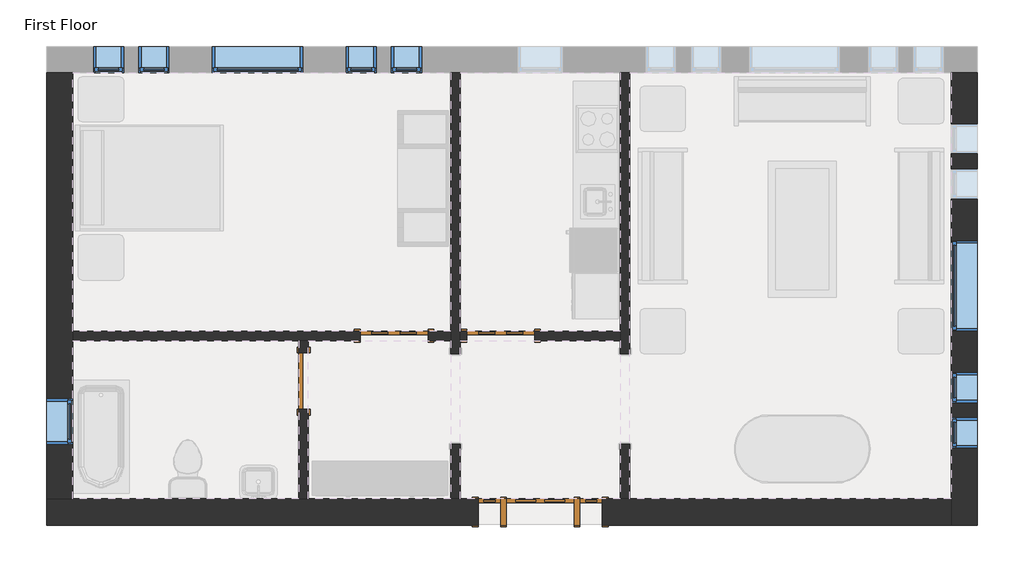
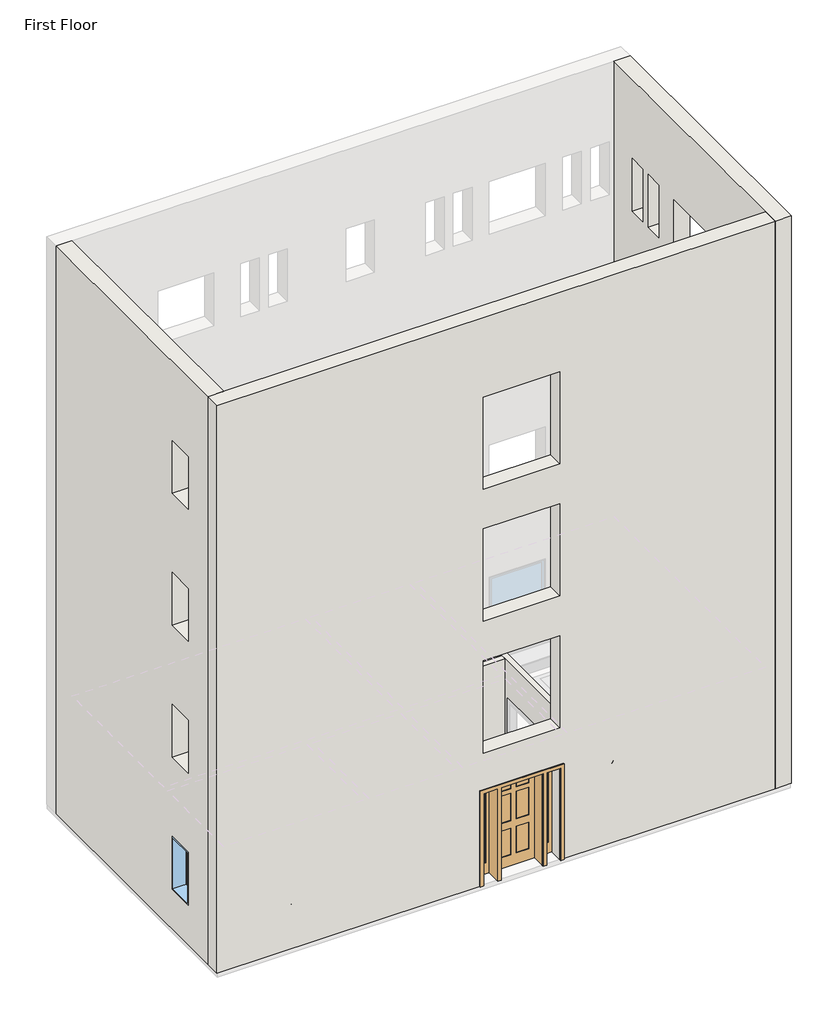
# One storey, part 1 of 2: 9 windows, 7 walls, 4 doors.
"""IFC4 building model written with IfcOpenShell, lengths in millimetres."""

from ifc_helpers import new_model, si_unit, frame, origin, place, context, project, spatial, polyline, outline, extrude, faceted_brep, transform, mapped, element, save
from components import door_829da954, door_2e3b4da2, door_4d6c7550, door_ffdb1193, window_da97879f, window_d61ef850, window_60baf983, window_6eb97611

model = new_model("IFC4")

# Units and contexts
model_context = context("Model", 3, world=origin())
ifc_project = project(units=[si_unit("LENGTHUNIT", "METRE", prefix="MILLI")], contexts=[model_context])

# Site, building, storey
site = spatial("IfcSite", under=ifc_project)
building = spatial("IfcBuilding", under=site)
storey = spatial("IfcBuildingStorey", under=building, Name="First Floor", Elevation=0.0)

# Doors
placement = place(None, origin())
door_shape = door_829da954(model_context)
element("IfcDoor", 1, ObjectType="Single-Decorative 2 : 36\" x 84\"", at=placement, inside=storey, context=model_context, shape_type="MappedRepresentation", body=[
    mapped(door_shape, transform((1532.0428612, 2378.418319, 0.0), x_axis=(-1.0, 0.0, 0.0), y_axis=(0.0, -1.0, 0.0), z_axis=(0.0, 0.0, 1.0))),
])
door_2_shape = door_2e3b4da2(model_context)
element("IfcDoor", 2, ObjectType="Single-Decorative 2 : 36\" x 84\"", at=placement, inside=storey, context=model_context, shape_type="MappedRepresentation", body=[
    mapped(door_2_shape, transform((95.3553612, 2378.418319, 0.0), x_axis=(1.0, 0.0, 0.0), y_axis=(0.0, 1.0, 0.0), z_axis=(0.0, 0.0, 1.0))),
])
door_3_shape = door_4d6c7550(model_context)
element("IfcDoor", 3, ObjectType="Single-Flush : 30\" x 84\"", at=placement, inside=storey, context=model_context, shape_type="MappedRepresentation", body=[
    mapped(door_3_shape, transform((-1123.8446388, 1768.818319, 0.0), x_axis=(0.0, 1.0, 0.0), y_axis=(-1.0, 0.0, 0.0), z_axis=(0.0, 0.0, 1.0))),
])
door_4_shape = door_ffdb1193(model_context)
element("IfcDoor", 4, ObjectType="Single-Raised Panel with Sidelights : 36\" x 84\"", at=placement, inside=storey, context=model_context, shape_type="MappedRepresentation", body=[
    mapped(door_4_shape, transform((2065.4428612, 5.105819, 0.0), x_axis=(1.0, 0.0, 0.0), y_axis=(0.0, 1.0, 0.0), z_axis=(0.0, 0.0, 1.0))),
])

# Walls
element("IfcWall", 5, ObjectType="Exterior - Brick on Mtl. Stud", at=placement, inside=storey, context=model_context, shape_type="Brep", body=[
    faceted_brep([(7604.2303612, 5924.893319, 0.0), (7604.2303612, 181.318319, 0.0), (7604.2303612, -158.406681, 0.0), (7604.2303612, -171.106681, 0.0), (7604.2303612, -171.106681, 13106.4), (7604.2303612, 181.318319, 13106.4), (7604.2303612, 5924.893319, 13106.4), (7604.2303612, 3662.705819, 2133.6), (7604.2303612, 2443.505819, 2133.6), (7604.2303612, 2443.505819, 914.4), (7604.2303612, 3662.705819, 914.4), (7604.2303612, 4627.905819, 2133.6), (7604.2303612, 4221.505819, 2133.6), (7604.2303612, 4221.505819, 914.4), (7604.2303612, 4627.905819, 914.4), (7604.2303612, 5237.505819, 2133.6), (7604.2303612, 4831.105819, 2133.6), (7604.2303612, 4831.105819, 914.4), (7604.2303612, 5237.505819, 914.4), (7604.2303612, 1275.105819, 2133.6), (7604.2303612, 868.705819, 2133.6), (7604.2303612, 868.705819, 914.4), (7604.2303612, 1275.105819, 914.4), (7604.2303612, 1884.705819, 2133.6), (7604.2303612, 1478.305819, 2133.6), (7604.2303612, 1478.305819, 914.4), (7604.2303612, 1884.705819, 914.4), (7604.2303612, 1275.105819, 11277.6), (7604.2303612, 868.705819, 11277.6), (7604.2303612, 868.705819, 10058.4), (7604.2303612, 1275.105819, 10058.4), (7604.2303612, 1884.705819, 11277.6), (7604.2303612, 1478.305819, 11277.6), (7604.2303612, 1478.305819, 10058.4), (7604.2303612, 1884.705819, 10058.4), (7604.2303612, 4627.905819, 11277.6), (7604.2303612, 4221.505819, 11277.6), (7604.2303612, 4221.505819, 10058.4), (7604.2303612, 4627.905819, 10058.4), (7604.2303612, 5237.505819, 11277.6), (7604.2303612, 4831.105819, 11277.6), (7604.2303612, 4831.105819, 10058.4), (7604.2303612, 5237.505819, 10058.4), (7604.2303612, 3662.705819, 11277.6), (7604.2303612, 2443.505819, 11277.6), (7604.2303612, 2443.505819, 10058.4), (7604.2303612, 3662.705819, 10058.4), (7604.2303612, 1275.105819, 5181.6), (7604.2303612, 868.705819, 5181.6), (7604.2303612, 868.705819, 3962.4), (7604.2303612, 1275.105819, 3962.4), (7604.2303612, 1884.705819, 5181.6), (7604.2303612, 1478.305819, 5181.6), (7604.2303612, 1478.305819, 3962.4), (7604.2303612, 1884.705819, 3962.4), (7604.2303612, 4627.905819, 5181.6), (7604.2303612, 4221.505819, 5181.6), (7604.2303612, 4221.505819, 3962.4), (7604.2303612, 4627.905819, 3962.4), (7604.2303612, 5237.505819, 5181.6), (7604.2303612, 4831.105819, 5181.6), (7604.2303612, 4831.105819, 3962.4), (7604.2303612, 5237.505819, 3962.4), (7604.2303612, 3662.705819, 5181.6), (7604.2303612, 2443.505819, 5181.6), (7604.2303612, 2443.505819, 3962.4), (7604.2303612, 3662.705819, 3962.4), (7604.2303612, 1275.105819, 8229.6), (7604.2303612, 868.705819, 8229.6), (7604.2303612, 868.705819, 7010.4), (7604.2303612, 1275.105819, 7010.4), (7604.2303612, 1884.705819, 8229.6), (7604.2303612, 1478.305819, 8229.6), (7604.2303612, 1478.305819, 7010.4), (7604.2303612, 1884.705819, 7010.4), (7604.2303612, 4627.905819, 8229.6), (7604.2303612, 4221.505819, 8229.6), (7604.2303612, 4221.505819, 7010.4), (7604.2303612, 4627.905819, 7010.4), (7604.2303612, 5237.505819, 8229.6), (7604.2303612, 4831.105819, 8229.6), (7604.2303612, 4831.105819, 7010.4), (7604.2303612, 5237.505819, 7010.4), (7604.2303612, 3662.705819, 8229.6), (7604.2303612, 2443.505819, 8229.6), (7604.2303612, 2443.505819, 7010.4), (7604.2303612, 3662.705819, 7010.4), (7956.6553612, 5924.893319, 0.0), (7956.6553612, 5924.893319, 13106.4), (7956.6553612, -171.106681, 13106.4), (7956.6553612, -171.106681, 0.0), (7956.6553612, -158.406681, 0.0), (7956.6553612, 3662.705819, 2133.6), (7956.6553612, 3662.705819, 914.4), (7956.6553612, 2443.505819, 914.4), (7956.6553612, 2443.505819, 2133.6), (7956.6553612, 4627.905819, 2133.6), (7956.6553612, 4627.905819, 914.4), (7956.6553612, 4221.505819, 914.4), (7956.6553612, 4221.505819, 2133.6), (7956.6553612, 5237.505819, 2133.6), (7956.6553612, 5237.505819, 914.4), (7956.6553612, 4831.105819, 914.4), (7956.6553612, 4831.105819, 2133.6), (7956.6553612, 1275.105819, 2133.6), (7956.6553612, 1275.105819, 914.4), (7956.6553612, 868.705819, 914.4), (7956.6553612, 868.705819, 2133.6), (7956.6553612, 1884.705819, 2133.6), (7956.6553612, 1884.705819, 914.4), (7956.6553612, 1478.305819, 914.4), (7956.6553612, 1478.305819, 2133.6), (7956.6553612, 1275.105819, 11277.6), (7956.6553612, 1275.105819, 10058.4), (7956.6553612, 868.705819, 10058.4), (7956.6553612, 868.705819, 11277.6), (7956.6553612, 1884.705819, 11277.6), (7956.6553612, 1884.705819, 10058.4), (7956.6553612, 1478.305819, 10058.4), (7956.6553612, 1478.305819, 11277.6), (7956.6553612, 4627.905819, 11277.6), (7956.6553612, 4627.905819, 10058.4), (7956.6553612, 4221.505819, 10058.4), (7956.6553612, 4221.505819, 11277.6), (7956.6553612, 5237.505819, 11277.6), (7956.6553612, 5237.505819, 10058.4), (7956.6553612, 4831.105819, 10058.4), (7956.6553612, 4831.105819, 11277.6), (7956.6553612, 3662.705819, 11277.6), (7956.6553612, 3662.705819, 10058.4), (7956.6553612, 2443.505819, 10058.4), (7956.6553612, 2443.505819, 11277.6), (7956.6553612, 1275.105819, 5181.6), (7956.6553612, 1275.105819, 3962.4), (7956.6553612, 868.705819, 3962.4), (7956.6553612, 868.705819, 5181.6), (7956.6553612, 1884.705819, 5181.6), (7956.6553612, 1884.705819, 3962.4), (7956.6553612, 1478.305819, 3962.4), (7956.6553612, 1478.305819, 5181.6), (7956.6553612, 4627.905819, 5181.6), (7956.6553612, 4627.905819, 3962.4), (7956.6553612, 4221.505819, 3962.4), (7956.6553612, 4221.505819, 5181.6), (7956.6553612, 5237.505819, 5181.6), (7956.6553612, 5237.505819, 3962.4), (7956.6553612, 4831.105819, 3962.4), (7956.6553612, 4831.105819, 5181.6), (7956.6553612, 3662.705819, 5181.6), (7956.6553612, 3662.705819, 3962.4), (7956.6553612, 2443.505819, 3962.4), (7956.6553612, 2443.505819, 5181.6), (7956.6553612, 1275.105819, 8229.6), (7956.6553612, 1275.105819, 7010.4), (7956.6553612, 868.705819, 7010.4), (7956.6553612, 868.705819, 8229.6), (7956.6553612, 1884.705819, 8229.6), (7956.6553612, 1884.705819, 7010.4), (7956.6553612, 1478.305819, 7010.4), (7956.6553612, 1478.305819, 8229.6), (7956.6553612, 4627.905819, 8229.6), (7956.6553612, 4627.905819, 7010.4), (7956.6553612, 4221.505819, 7010.4), (7956.6553612, 4221.505819, 8229.6), (7956.6553612, 5237.505819, 8229.6), (7956.6553612, 5237.505819, 7010.4), (7956.6553612, 4831.105819, 7010.4), (7956.6553612, 4831.105819, 8229.6), (7956.6553612, 3662.705819, 8229.6), (7956.6553612, 3662.705819, 7010.4), (7956.6553612, 2443.505819, 7010.4), (7956.6553612, 2443.505819, 8229.6), (7943.9553612, 5924.893319, 0.0), (7943.9553612, -171.106681, 0.0), (7943.9553612, -158.406681, 0.0)], [[[0, 1, 2, 3, 4, 5, 6], [7, 8, 9, 10], [11, 12, 13, 14], [15, 16, 17, 18], [19, 20, 21, 22], [23, 24, 25, 26], [27, 28, 29, 30], [31, 32, 33, 34], [35, 36, 37, 38], [39, 40, 41, 42], [43, 44, 45, 46], [47, 48, 49, 50], [51, 52, 53, 54], [55, 56, 57, 58], [59, 60, 61, 62], [63, 64, 65, 66], [67, 68, 69, 70], [71, 72, 73, 74], [75, 76, 77, 78], [79, 80, 81, 82], [83, 84, 85, 86]], [[87, 88, 89, 90, 91], [92, 93, 94, 95], [96, 97, 98, 99], [100, 101, 102, 103], [104, 105, 106, 107], [108, 109, 110, 111], [112, 113, 114, 115], [116, 117, 118, 119], [120, 121, 122, 123], [124, 125, 126, 127], [128, 129, 130, 131], [132, 133, 134, 135], [136, 137, 138, 139], [140, 141, 142, 143], [144, 145, 146, 147], [148, 149, 150, 151], [152, 153, 154, 155], [156, 157, 158, 159], [160, 161, 162, 163], [164, 165, 166, 167], [168, 169, 170, 171]], [[6, 5, 4, 89, 88]], [[0, 6, 88, 87, 172]], [[4, 3, 173, 90, 89]], [[93, 92, 7, 10]], [[94, 93, 10, 9]], [[95, 94, 9, 8]], [[92, 95, 8, 7]], [[97, 96, 11, 14]], [[98, 97, 14, 13]], [[99, 98, 13, 12]], [[96, 99, 12, 11]], [[101, 100, 15, 18]], [[102, 101, 18, 17]], [[103, 102, 17, 16]], [[100, 103, 16, 15]], [[105, 104, 19, 22]], [[106, 105, 22, 21]], [[107, 106, 21, 20]], [[104, 107, 20, 19]], [[109, 108, 23, 26]], [[110, 109, 26, 25]], [[111, 110, 25, 24]], [[108, 111, 24, 23]], [[172, 87, 91, 174]], [[3, 2, 174, 173]], [[174, 91, 90, 173]], [[2, 1, 0, 172, 174]], [[113, 112, 27, 30]], [[114, 113, 30, 29]], [[115, 114, 29, 28]], [[112, 115, 28, 27]], [[117, 116, 31, 34]], [[118, 117, 34, 33]], [[119, 118, 33, 32]], [[116, 119, 32, 31]], [[121, 120, 35, 38]], [[122, 121, 38, 37]], [[123, 122, 37, 36]], [[120, 123, 36, 35]], [[125, 124, 39, 42]], [[126, 125, 42, 41]], [[127, 126, 41, 40]], [[124, 127, 40, 39]], [[129, 128, 43, 46]], [[130, 129, 46, 45]], [[131, 130, 45, 44]], [[128, 131, 44, 43]], [[133, 132, 47, 50]], [[134, 133, 50, 49]], [[135, 134, 49, 48]], [[132, 135, 48, 47]], [[137, 136, 51, 54]], [[138, 137, 54, 53]], [[139, 138, 53, 52]], [[136, 139, 52, 51]], [[141, 140, 55, 58]], [[142, 141, 58, 57]], [[143, 142, 57, 56]], [[140, 143, 56, 55]], [[145, 144, 59, 62]], [[146, 145, 62, 61]], [[147, 146, 61, 60]], [[144, 147, 60, 59]], [[149, 148, 63, 66]], [[150, 149, 66, 65]], [[151, 150, 65, 64]], [[148, 151, 64, 63]], [[153, 152, 67, 70]], [[154, 153, 70, 69]], [[155, 154, 69, 68]], [[152, 155, 68, 67]], [[157, 156, 71, 74]], [[158, 157, 74, 73]], [[159, 158, 73, 72]], [[156, 159, 72, 71]], [[161, 160, 75, 78]], [[162, 161, 78, 77]], [[163, 162, 77, 76]], [[160, 163, 76, 75]], [[165, 164, 79, 82]], [[166, 165, 82, 81]], [[167, 166, 81, 80]], [[164, 167, 80, 79]], [[169, 168, 83, 86]], [[170, 169, 86, 85]], [[171, 170, 85, 84]], [[168, 171, 84, 83]]]),
])
element("IfcWall", 6, ObjectType="Exterior - Brick on Mtl. Stud", at=placement, inside=storey, context=model_context, shape_type="Brep", body=[
    faceted_brep([(7604.2303612, 181.318319, 0.0), (3271.9428612, 181.318319, 0.0), (3144.9428612, 181.318319, 0.0), (2903.6428612, 181.318319, 0.0), (2903.6428612, 181.318319, 2133.6), (1227.2428612, 181.318319, 2133.6), (1227.2428612, 181.318319, 0.0), (985.9428612, 181.318319, 0.0), (858.9428612, 181.318319, 0.0), (-1060.3446388, 181.318319, 0.0), (-1187.3446388, 181.318319, 0.0), (-4235.3446388, 181.318319, 0.0), (-4587.7696388, 181.318319, 0.0), (-4587.7696388, 181.318319, 13106.4), (-4235.3446388, 181.318319, 13106.4), (7604.2303612, 181.318319, 13106.4), (1227.2428612, 181.318319, 9144.0), (2903.6428612, 181.318319, 9144.0), (2903.6428612, 181.318319, 11277.6), (1227.2428612, 181.318319, 11277.6), (1227.2428612, 181.318319, 3048.0), (2903.6428612, 181.318319, 3048.0), (2903.6428612, 181.318319, 5181.6), (1227.2428612, 181.318319, 5181.6), (1227.2428612, 181.318319, 6096.0), (2903.6428612, 181.318319, 6096.0), (2903.6428612, 181.318319, 8229.6), (1227.2428612, 181.318319, 8229.6), (2903.6428612, -171.106681, 2133.6), (2903.6428612, -171.106681, 0.0), (7604.2303612, -171.106681, 0.0), (7604.2303612, -171.106681, 13106.4), (-4587.7696388, -171.106681, 13106.4), (-4587.7696388, -171.106681, 0.0), (1227.2428612, -171.106681, 0.0), (1227.2428612, -171.106681, 2133.6), (1227.2428612, -171.106681, 9144.0), (1227.2428612, -171.106681, 11277.6), (2903.6428612, -171.106681, 11277.6), (2903.6428612, -171.106681, 9144.0), (1227.2428612, -171.106681, 3048.0), (1227.2428612, -171.106681, 5181.6), (2903.6428612, -171.106681, 5181.6), (2903.6428612, -171.106681, 3048.0), (1227.2428612, -171.106681, 6096.0), (1227.2428612, -171.106681, 8229.6), (2903.6428612, -171.106681, 8229.6), (2903.6428612, -171.106681, 6096.0)], [[[0, 1, 2, 3, 4, 5, 6, 7, 8, 9, 10, 11, 12, 13, 14, 15], [16, 17, 18, 19], [20, 21, 22, 23], [24, 25, 26, 27]], [[28, 29, 30, 31, 32, 33, 34, 35], [36, 37, 38, 39], [40, 41, 42, 43], [44, 45, 46, 47]], [[34, 33, 12, 11, 10, 9, 8, 7, 6]], [[30, 29, 3, 2, 1, 0]], [[15, 14, 13, 32, 31]], [[0, 15, 31, 30]], [[13, 12, 33, 32]], [[4, 3, 29, 28]], [[5, 4, 28, 35]], [[6, 5, 35, 34]], [[17, 16, 36, 39]], [[18, 17, 39, 38]], [[19, 18, 38, 37]], [[16, 19, 37, 36]], [[21, 20, 40, 43]], [[22, 21, 43, 42]], [[23, 22, 42, 41]], [[20, 23, 41, 40]], [[25, 24, 44, 47]], [[26, 25, 47, 46]], [[27, 26, 46, 45]], [[24, 27, 45, 44]]]),
])
element("IfcWall", 7, ObjectType="Exterior - Brick on Mtl. Stud", at=placement, inside=storey, context=model_context, shape_type="Brep", body=[
    faceted_brep([(-4235.3446388, 181.318319, 0.0), (-4235.3446388, 2314.918319, 0.0), (-4235.3446388, 2441.918319, 0.0), (-4235.3446388, 5924.893319, 0.0), (-4235.3446388, 5924.893319, 13106.4), (-4235.3446388, 181.318319, 13106.4), (-4235.3446388, 919.505819, 2133.6), (-4235.3446388, 1529.105819, 2133.6), (-4235.3446388, 1529.105819, 914.4), (-4235.3446388, 919.505819, 914.4), (-4235.3446388, 919.505819, 11277.6), (-4235.3446388, 1529.105819, 11277.6), (-4235.3446388, 1529.105819, 10058.4), (-4235.3446388, 919.505819, 10058.4), (-4235.3446388, 919.505819, 5181.6), (-4235.3446388, 1529.105819, 5181.6), (-4235.3446388, 1529.105819, 3962.4), (-4235.3446388, 919.505819, 3962.4), (-4235.3446388, 919.505819, 8229.6), (-4235.3446388, 1529.105819, 8229.6), (-4235.3446388, 1529.105819, 7010.4), (-4235.3446388, 919.505819, 7010.4), (-4587.7696388, 181.318319, 0.0), (-4587.7696388, 181.318319, 13106.4), (-4587.7696388, 5924.893319, 13106.4), (-4587.7696388, 5924.893319, 0.0), (-4587.7696388, 919.505819, 2133.6), (-4587.7696388, 919.505819, 914.4), (-4587.7696388, 1529.105819, 914.4), (-4587.7696388, 1529.105819, 2133.6), (-4587.7696388, 919.505819, 11277.6), (-4587.7696388, 919.505819, 10058.4), (-4587.7696388, 1529.105819, 10058.4), (-4587.7696388, 1529.105819, 11277.6), (-4587.7696388, 919.505819, 5181.6), (-4587.7696388, 919.505819, 3962.4), (-4587.7696388, 1529.105819, 3962.4), (-4587.7696388, 1529.105819, 5181.6), (-4587.7696388, 919.505819, 8229.6), (-4587.7696388, 919.505819, 7010.4), (-4587.7696388, 1529.105819, 7010.4), (-4587.7696388, 1529.105819, 8229.6), (-4575.0696388, 181.318319, 0.0), (-4575.0696388, 5924.893319, 0.0)], [[[0, 1, 2, 3, 4, 5], [6, 7, 8, 9], [10, 11, 12, 13], [14, 15, 16, 17], [18, 19, 20, 21]], [[22, 23, 24, 25], [26, 27, 28, 29], [30, 31, 32, 33], [34, 35, 36, 37], [38, 39, 40, 41]], [[5, 4, 24, 23]], [[0, 5, 23, 22, 42]], [[4, 3, 43, 25, 24]], [[27, 26, 6, 9]], [[28, 27, 9, 8]], [[29, 28, 8, 7]], [[26, 29, 7, 6]], [[42, 22, 25, 43]], [[3, 2, 1, 0, 42, 43]], [[31, 30, 10, 13]], [[32, 31, 13, 12]], [[33, 32, 12, 11]], [[30, 33, 11, 10]], [[35, 34, 14, 17]], [[36, 35, 17, 16]], [[37, 36, 16, 15]], [[34, 37, 15, 14]], [[39, 38, 18, 21]], [[40, 39, 21, 20]], [[41, 40, 20, 19]], [[38, 41, 19, 18]]]),
])
element("IfcWall", 8, ObjectType="Interior - 5\" Partition (2-hr)", at=placement, inside=storey, context=model_context, shape_type="Brep", body=[
    faceted_brep([(3144.9428612, 5924.893319, 0.0), (3144.9428612, 2441.918319, 0.0), (3144.9428612, 2314.918319, 0.0), (3144.9428612, 2138.705819, 0.0), (3144.9428612, 2138.705819, 2133.6), (3144.9428612, 919.505819, 2133.6), (3144.9428612, 919.505819, 0.0), (3144.9428612, 181.318319, 0.0), (3144.9428612, 181.318319, 3048.0), (3144.9428612, 2314.918319, 3048.0), (3144.9428612, 2441.918319, 3048.0), (3144.9428612, 5924.893319, 3048.0), (3271.9428612, 2138.705819, 2133.6), (3271.9428612, 2138.705819, 0.0), (3271.9428612, 5924.893319, 0.0), (3271.9428612, 5924.893319, 3048.0), (3271.9428612, 181.318319, 3048.0), (3271.9428612, 181.318319, 0.0), (3271.9428612, 919.505819, 0.0), (3271.9428612, 919.505819, 2133.6)], [[[0, 1, 2, 3, 4, 5, 6, 7, 8, 9, 10, 11]], [[12, 13, 14, 15, 16, 17, 18, 19]], [[18, 17, 7, 6]], [[14, 13, 3, 2, 1, 0]], [[11, 10, 9, 8, 16, 15]], [[0, 11, 15, 14]], [[8, 7, 17, 16]], [[6, 5, 19, 18]], [[4, 3, 13, 12]], [[5, 4, 12, 19]]]),
])
element("IfcWall", 9, ObjectType="Interior - 5\" Partition (2-hr)", at=placement, inside=storey, context=model_context, shape_type="Brep", body=[
    faceted_brep([(858.9428612, 5924.893319, 0.0), (858.9428612, 2441.918319, 0.0), (858.9428612, 2314.918319, 0.0), (858.9428612, 2138.705819, 0.0), (858.9428612, 2138.705819, 2133.6), (858.9428612, 919.505819, 2133.6), (858.9428612, 919.505819, 0.0), (858.9428612, 181.318319, 0.0), (858.9428612, 181.318319, 3048.0), (858.9428612, 2314.918319, 3048.0), (858.9428612, 2441.918319, 3048.0), (858.9428612, 5924.893319, 3048.0), (985.9428612, 2138.705819, 2133.6), (985.9428612, 2138.705819, 0.0), (985.9428612, 2314.918319, 0.0), (985.9428612, 2441.918319, 0.0), (985.9428612, 5924.893319, 0.0), (985.9428612, 5924.893319, 3048.0), (985.9428612, 2441.918319, 3048.0), (985.9428612, 2314.918319, 3048.0), (985.9428612, 181.318319, 3048.0), (985.9428612, 181.318319, 0.0), (985.9428612, 919.505819, 0.0), (985.9428612, 919.505819, 2133.6)], [[[0, 1, 2, 3, 4, 5, 6, 7, 8, 9, 10, 11]], [[12, 13, 14, 15, 16, 17, 18, 19, 20, 21, 22, 23]], [[22, 21, 7, 6]], [[16, 15, 14, 13, 3, 2, 1, 0]], [[11, 10, 9, 8, 20, 19, 18, 17]], [[0, 11, 17, 16]], [[8, 7, 21, 20]], [[6, 5, 23, 22]], [[4, 3, 13, 12]], [[5, 4, 12, 23]]]),
])
element("IfcWall", 10, ObjectType="Interior - 5\" Partition (2-hr)", at=placement, inside=storey, context=model_context, shape_type="Brep", body=[
    faceted_brep([(-4235.3446388, 2314.918319, 3048.0), (-4235.3446388, 2314.918319, 0.0), (-1187.3446388, 2314.918319, 0.0), (-1060.3446388, 2314.918319, 0.0), (-361.8446388, 2314.918319, 0.0), (-361.8446388, 2314.918319, 2133.6), (552.5553612, 2314.918319, 2133.6), (552.5553612, 2314.918319, 0.0), (858.9428612, 2314.918319, 0.0), (858.9428612, 2314.918319, 3048.0), (-1060.3446388, 2314.918319, 3048.0), (-1187.3446388, 2314.918319, 3048.0), (-4235.3446388, 2441.918319, 0.0), (-4235.3446388, 2441.918319, 3048.0), (858.9428612, 2441.918319, 3048.0), (858.9428612, 2441.918319, 0.0), (552.5553612, 2441.918319, 0.0), (552.5553612, 2441.918319, 2133.6), (-361.8446388, 2441.918319, 2133.6), (-361.8446388, 2441.918319, 0.0)], [[[0, 1, 2, 3, 4, 5, 6, 7, 8, 9, 10, 11]], [[12, 13, 14, 15, 16, 17, 18, 19]], [[1, 12, 19, 4, 3, 2]], [[7, 16, 15, 8]], [[13, 0, 11, 10, 9, 14]], [[1, 0, 13, 12]], [[9, 8, 15, 14]], [[17, 16, 7, 6]], [[18, 17, 6, 5]], [[19, 18, 5, 4]]]),
    faceted_brep([(3144.9428612, 2314.918319, 0.0), (3144.9428612, 2314.918319, 3048.0), (985.9428612, 2314.918319, 3048.0), (985.9428612, 2314.918319, 0.0), (1074.8428612, 2314.918319, 0.0), (1074.8428612, 2314.918319, 2133.6), (1989.2428612, 2314.918319, 2133.6), (1989.2428612, 2314.918319, 0.0), (3144.9428612, 2441.918319, 3048.0), (3144.9428612, 2441.918319, 0.0), (1989.2428612, 2441.918319, 0.0), (1989.2428612, 2441.918319, 2133.6), (1074.8428612, 2441.918319, 2133.6), (1074.8428612, 2441.918319, 0.0), (985.9428612, 2441.918319, 0.0), (985.9428612, 2441.918319, 3048.0)], [[[0, 1, 2, 3, 4, 5, 6, 7]], [[8, 9, 10, 11, 12, 13, 14, 15]], [[9, 0, 7, 10]], [[13, 4, 3, 14]], [[1, 8, 15, 2]], [[1, 0, 9, 8]], [[3, 2, 15, 14]], [[5, 4, 13, 12]], [[6, 5, 12, 11]], [[7, 6, 11, 10]]]),
])
element("IfcWall", 11, ObjectType="Interior - 5\" Partition (2-hr)", at=placement, inside=storey, context=model_context, shape_type="SweptSolid", body=[
    extrude(outline(polyline([(2314.918319, 0.0), (2149.818319, 0.0), (2149.818319, 2133.6), (1387.818319, 2133.6), (1387.818319, 0.0), (181.318319, 0.0), (181.318319, 3048.0), (2314.918319, 3048.0), (2314.918319, 0.0)])), frame((-1187.3446388, 0.0, 0.0), z_axis=(1.0, 0.0, 0.0), x_axis=(0.0, 1.0, 0.0)), (0.0, 0.0, 1.0), 127.0),
])

# Windows
window_shape = window_da97879f(model_context)
element("IfcWindow", 12, ObjectType="Fixed : 16\" x 48\"", at=placement, inside=storey, context=model_context, shape_type="MappedRepresentation", body=[
    mapped(window_shape, transform((-3789.2571388, 6101.105819, 0.0), x_axis=(-1.0, 0.0, 0.0), y_axis=(0.0, -1.0, 0.0), z_axis=(0.0, 0.0, 1.0))),
])
element("IfcWindow", 13, ObjectType="Fixed : 16\" x 48\"", at=placement, inside=storey, context=model_context, shape_type="MappedRepresentation", body=[
    mapped(window_shape, transform((-3179.6571388, 6101.105819, 0.0), x_axis=(-1.0, 0.0, 0.0), y_axis=(0.0, -1.0, 0.0), z_axis=(0.0, 0.0, 1.0))),
])
element("IfcWindow", 14, ObjectType="Fixed : 16\" x 48\"", at=placement, inside=storey, context=model_context, shape_type="MappedRepresentation", body=[
    mapped(window_shape, transform((7780.4428612, 1719.605819, 0.0), x_axis=(0.0, 1.0, 0.0), y_axis=(-1.0, 0.0, 0.0), z_axis=(0.0, 0.0, 1.0))),
])
element("IfcWindow", 15, ObjectType="Fixed : 16\" x 48\"", at=placement, inside=storey, context=model_context, shape_type="MappedRepresentation", body=[
    mapped(window_shape, transform((7780.4428612, 1110.005819, 0.0), x_axis=(0.0, 1.0, 0.0), y_axis=(-1.0, 0.0, 0.0), z_axis=(0.0, 0.0, 1.0))),
])
window_2_shape = window_d61ef850(model_context)
element("IfcWindow", 16, ObjectType="Fixed : 16\" x 48\"", at=placement, inside=storey, context=model_context, shape_type="MappedRepresentation", body=[
    mapped(window_2_shape, transform((300.1428612, 6101.105819, 0.0), x_axis=(1.0, 0.0, 0.0), y_axis=(0.0, 1.0, 0.0), z_axis=(0.0, 0.0, 1.0))),
])
element("IfcWindow", 17, ObjectType="Fixed : 16\" x 48\"", at=placement, inside=storey, context=model_context, shape_type="MappedRepresentation", body=[
    mapped(window_2_shape, transform((-309.4571388, 6101.105819, 0.0), x_axis=(1.0, 0.0, 0.0), y_axis=(0.0, 1.0, 0.0), z_axis=(0.0, 0.0, 1.0))),
])
window_3_shape = window_60baf983(model_context)
element("IfcWindow", 18, ObjectType="Fixed : 24\" x 48\"", at=placement, inside=storey, context=model_context, shape_type="MappedRepresentation", body=[
    mapped(window_3_shape, transform((-4411.5571388, 1186.205819, 0.0), x_axis=(0.0, -1.0, 0.0), y_axis=(1.0, 0.0, 0.0), z_axis=(0.0, 0.0, 1.0))),
])
window_4_shape = window_6eb97611(model_context)
element("IfcWindow", 19, ObjectType="Fixed : 48\" x 48\"", at=placement, inside=storey, context=model_context, shape_type="MappedRepresentation", body=[
    mapped(window_4_shape, transform((-1782.6571388, 6101.105819, 0.0), x_axis=(-1.0, 0.0, 0.0), y_axis=(0.0, -1.0, 0.0), z_axis=(0.0, 0.0, 1.0))),
])
element("IfcWindow", 20, ObjectType="Fixed : 48\" x 48\"", at=placement, inside=storey, context=model_context, shape_type="MappedRepresentation", body=[
    mapped(window_4_shape, transform((7780.4428612, 3091.205819, 0.0), x_axis=(0.0, 1.0, 0.0), y_axis=(-1.0, 0.0, 0.0), z_axis=(0.0, 0.0, 1.0))),
])

save(model, "model.ifc")
